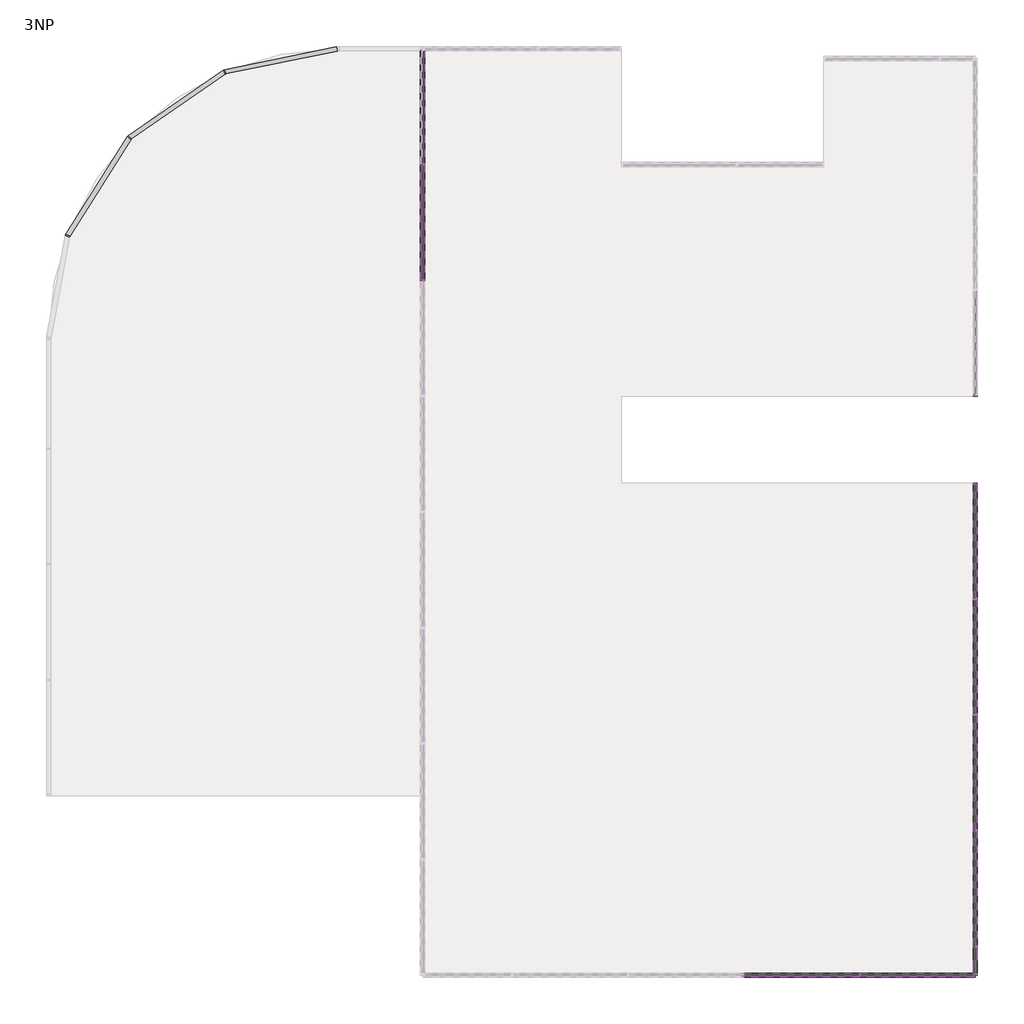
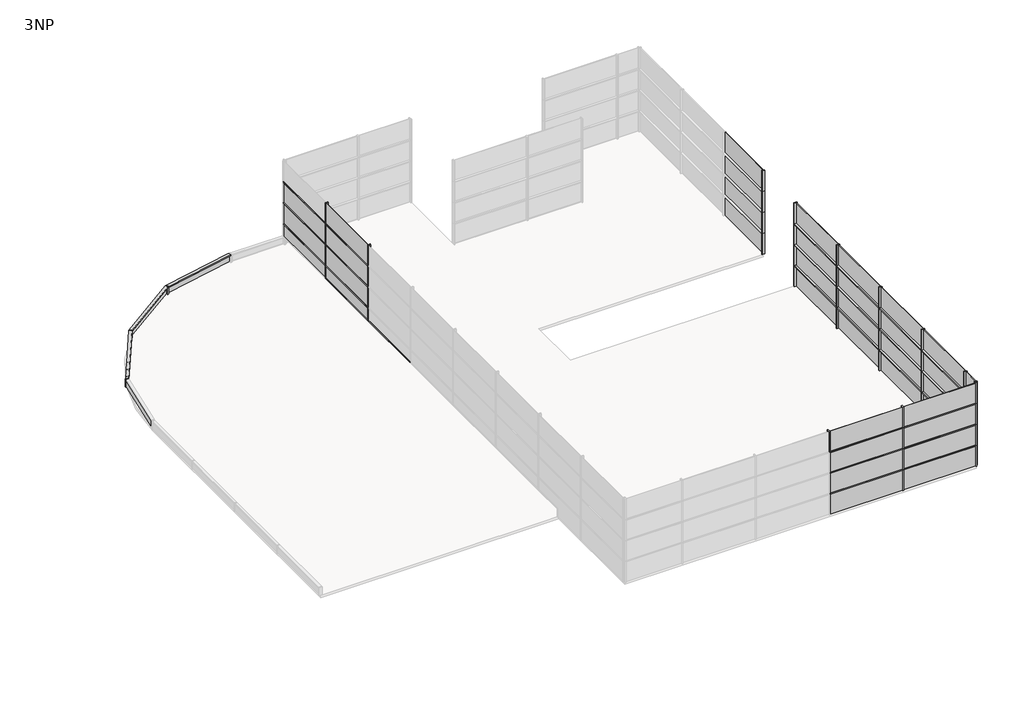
# One storey, part 2 of 3: 80 members, 43 plates.
"""IFC4 building model written with IfcOpenShell, lengths in millimetres."""

from ifc_helpers import new_model, si_unit, origin, place, context, project, spatial, transform, mapped, element, save
from components import rectangular_mullion_50_x_150mm_d99dc9be, rectangular_mullion_50_x_150mm_182bfbd5, rectangular_mullion_50_x_150mm_6588f46c, rectangular_mullion_50_x_150mm_a037c29c, rectangular_mullion_50_x_150mm_c2546fd4, rectangular_mullion_50_x_150mm_116cff39, rectangular_mullion_50_x_150mm_823f78f2, rectangular_mullion_50_x_150mm_ac5ca7ae, rectangular_mullion_50_x_150mm_3491e2ff, rectangular_mullion_50_x_150mm_3d11f3b6, system_panel_glazed_8e9402eb, system_panel_glazed_89ac83a7, system_panel_glazed_5566c609, system_panel_glazed_8c18451d, system_panel_glazed_6f3688e4, system_panel_glazed_b7b38b86, system_panel_glazed_066b9291, system_panel_glazed_e982af32, system_panel_glazed_e390192d

model = new_model("IFC4")

# Units and contexts
model_context = context("Model", 3, world=origin())
ifc_project = project(units=[si_unit("LENGTHUNIT", "METRE", prefix="MILLI")], contexts=[model_context])

# Site, building, storey
site = spatial("IfcSite", under=ifc_project)
building = spatial("IfcBuilding", under=site)
storey = spatial("IfcBuildingStorey", under=building, Name="3NP", Elevation=12000.0)

# Members
placement = place(None, origin())
rectangular_mullion_50_x_150mm_shape = rectangular_mullion_50_x_150mm_d99dc9be(model_context)
element("IfcMember", 1, ObjectType="Rectangular Mullion : 50 x 150mm", at=placement, inside=storey, context=model_context, shape_type="MappedRepresentation", body=[
    mapped(rectangular_mullion_50_x_150mm_shape, transform((13503.2660975, -10624.0160434, 13200.0), x_axis=(0.0, -1.0, 0.0), y_axis=(1.0, 0.0, 0.0), z_axis=(0.0, 0.0, 1.0))),
])
element("IfcMember", 2, ObjectType="Rectangular Mullion : 50 x 150mm", at=placement, inside=storey, context=model_context, shape_type="MappedRepresentation", body=[
    mapped(rectangular_mullion_50_x_150mm_shape, transform((13503.2660975, -10624.0160434, 14400.0), x_axis=(0.0, -1.0, 0.0), y_axis=(1.0, 0.0, 0.0), z_axis=(0.0, 0.0, 1.0))),
])
element("IfcMember", 3, ObjectType="Rectangular Mullion : 50 x 150mm", at=placement, inside=storey, context=model_context, shape_type="MappedRepresentation", body=[
    mapped(rectangular_mullion_50_x_150mm_shape, transform((13503.2660975, -10624.0160434, 15600.0), x_axis=(0.0, -1.0, 0.0), y_axis=(1.0, 0.0, 0.0), z_axis=(0.0, 0.0, 1.0))),
])
element("IfcMember", 4, ObjectType="Rectangular Mullion : 50 x 150mm", at=placement, inside=storey, context=model_context, shape_type="MappedRepresentation", body=[
    mapped(rectangular_mullion_50_x_150mm_shape, transform((13503.2660975, -10624.0160434, 16800.0), x_axis=(0.0, -1.0, 0.0), y_axis=(1.0, 0.0, 0.0), z_axis=(0.0, 0.0, 1.0))),
])
element("IfcMember", 5, ObjectType="Rectangular Mullion : 50 x 150mm", at=placement, inside=storey, context=model_context, shape_type="MappedRepresentation", body=[
    mapped(rectangular_mullion_50_x_150mm_shape, transform((13503.2660975, -14624.0160434, 13200.0), x_axis=(0.0, -1.0, 0.0), y_axis=(1.0, 0.0, 0.0), z_axis=(0.0, 0.0, 1.0))),
])
element("IfcMember", 6, ObjectType="Rectangular Mullion : 50 x 150mm", at=placement, inside=storey, context=model_context, shape_type="MappedRepresentation", body=[
    mapped(rectangular_mullion_50_x_150mm_shape, transform((13503.2660975, -14624.0160434, 14400.0), x_axis=(0.0, -1.0, 0.0), y_axis=(1.0, 0.0, 0.0), z_axis=(0.0, 0.0, 1.0))),
])
element("IfcMember", 7, ObjectType="Rectangular Mullion : 50 x 150mm", at=placement, inside=storey, context=model_context, shape_type="MappedRepresentation", body=[
    mapped(rectangular_mullion_50_x_150mm_shape, transform((13503.2660975, -14624.0160434, 15600.0), x_axis=(0.0, -1.0, 0.0), y_axis=(1.0, 0.0, 0.0), z_axis=(0.0, 0.0, 1.0))),
])
element("IfcMember", 8, ObjectType="Rectangular Mullion : 50 x 150mm", at=placement, inside=storey, context=model_context, shape_type="MappedRepresentation", body=[
    mapped(rectangular_mullion_50_x_150mm_shape, transform((13503.2660975, -14624.0160434, 16800.0), x_axis=(0.0, -1.0, 0.0), y_axis=(1.0, 0.0, 0.0), z_axis=(0.0, 0.0, 1.0))),
])
element("IfcMember", 9, ObjectType="Rectangular Mullion : 50 x 150mm", at=placement, inside=storey, context=model_context, shape_type="MappedRepresentation", body=[
    mapped(rectangular_mullion_50_x_150mm_shape, transform((13503.2660975, -18624.0160434, 13200.0), x_axis=(0.0, -1.0, 0.0), y_axis=(1.0, 0.0, 0.0), z_axis=(0.0, 0.0, 1.0))),
])
element("IfcMember", 10, ObjectType="Rectangular Mullion : 50 x 150mm", at=placement, inside=storey, context=model_context, shape_type="MappedRepresentation", body=[
    mapped(rectangular_mullion_50_x_150mm_shape, transform((13503.2660975, -18624.0160434, 14400.0), x_axis=(0.0, -1.0, 0.0), y_axis=(1.0, 0.0, 0.0), z_axis=(0.0, 0.0, 1.0))),
])
element("IfcMember", 11, ObjectType="Rectangular Mullion : 50 x 150mm", at=placement, inside=storey, context=model_context, shape_type="MappedRepresentation", body=[
    mapped(rectangular_mullion_50_x_150mm_shape, transform((13503.2660975, -18624.0160434, 15600.0), x_axis=(0.0, -1.0, 0.0), y_axis=(1.0, 0.0, 0.0), z_axis=(0.0, 0.0, 1.0))),
])
element("IfcMember", 12, ObjectType="Rectangular Mullion : 50 x 150mm", at=placement, inside=storey, context=model_context, shape_type="MappedRepresentation", body=[
    mapped(rectangular_mullion_50_x_150mm_shape, transform((13503.2660975, -18624.0160434, 16800.0), x_axis=(0.0, -1.0, 0.0), y_axis=(1.0, 0.0, 0.0), z_axis=(0.0, 0.0, 1.0))),
])
element("IfcMember", 13, ObjectType="Rectangular Mullion : 50 x 150mm", at=placement, inside=storey, context=model_context, shape_type="MappedRepresentation", body=[
    mapped(rectangular_mullion_50_x_150mm_shape, transform((13503.2660975, -22624.0160434, 13200.0), x_axis=(0.0, -1.0, 0.0), y_axis=(1.0, 0.0, 0.0), z_axis=(0.0, 0.0, 1.0))),
])
element("IfcMember", 14, ObjectType="Rectangular Mullion : 50 x 150mm", at=placement, inside=storey, context=model_context, shape_type="MappedRepresentation", body=[
    mapped(rectangular_mullion_50_x_150mm_shape, transform((13503.2660975, -22624.0160434, 14400.0), x_axis=(0.0, -1.0, 0.0), y_axis=(1.0, 0.0, 0.0), z_axis=(0.0, 0.0, 1.0))),
])
element("IfcMember", 15, ObjectType="Rectangular Mullion : 50 x 150mm", at=placement, inside=storey, context=model_context, shape_type="MappedRepresentation", body=[
    mapped(rectangular_mullion_50_x_150mm_shape, transform((13503.2660975, -22624.0160434, 15600.0), x_axis=(0.0, -1.0, 0.0), y_axis=(1.0, 0.0, 0.0), z_axis=(0.0, 0.0, 1.0))),
])
element("IfcMember", 16, ObjectType="Rectangular Mullion : 50 x 150mm", at=placement, inside=storey, context=model_context, shape_type="MappedRepresentation", body=[
    mapped(rectangular_mullion_50_x_150mm_shape, transform((13503.2660975, -22624.0160434, 16800.0), x_axis=(0.0, -1.0, 0.0), y_axis=(1.0, 0.0, 0.0), z_axis=(0.0, 0.0, 1.0))),
])
element("IfcMember", 17, ObjectType="Rectangular Mullion : 50 x 150mm", at=placement, inside=storey, context=model_context, shape_type="MappedRepresentation", body=[
    mapped(rectangular_mullion_50_x_150mm_shape, transform((9503.2660975, -23624.0160434, 13200.0), x_axis=(-1.0, 0.0, 0.0), y_axis=(0.0, -1.0, 0.0), z_axis=(0.0, 0.0, 1.0))),
])
element("IfcMember", 18, ObjectType="Rectangular Mullion : 50 x 150mm", at=placement, inside=storey, context=model_context, shape_type="MappedRepresentation", body=[
    mapped(rectangular_mullion_50_x_150mm_shape, transform((9503.2660975, -23624.0160434, 14400.0), x_axis=(-1.0, 0.0, 0.0), y_axis=(0.0, -1.0, 0.0), z_axis=(0.0, 0.0, 1.0))),
])
element("IfcMember", 19, ObjectType="Rectangular Mullion : 50 x 150mm", at=placement, inside=storey, context=model_context, shape_type="MappedRepresentation", body=[
    mapped(rectangular_mullion_50_x_150mm_shape, transform((9503.2660975, -23624.0160434, 15600.0), x_axis=(-1.0, 0.0, 0.0), y_axis=(0.0, -1.0, 0.0), z_axis=(0.0, 0.0, 1.0))),
])
element("IfcMember", 20, ObjectType="Rectangular Mullion : 50 x 150mm", at=placement, inside=storey, context=model_context, shape_type="MappedRepresentation", body=[
    mapped(rectangular_mullion_50_x_150mm_shape, transform((9503.2660975, -23624.0160434, 16800.0), x_axis=(-1.0, 0.0, 0.0), y_axis=(0.0, -1.0, 0.0), z_axis=(0.0, 0.0, 1.0))),
])
element("IfcMember", 21, ObjectType="Rectangular Mullion : 50 x 150mm", at=placement, inside=storey, context=model_context, shape_type="MappedRepresentation", body=[
    mapped(rectangular_mullion_50_x_150mm_shape, transform((5503.2660975, -23624.0160434, 16800.0), x_axis=(-1.0, 0.0, 0.0), y_axis=(0.0, -1.0, 0.0), z_axis=(0.0, 0.0, 1.0))),
])
element("IfcMember", 22, ObjectType="Rectangular Mullion : 50 x 150mm", at=placement, inside=storey, context=model_context, shape_type="MappedRepresentation", body=[
    mapped(rectangular_mullion_50_x_150mm_shape, transform((-5587.173406, 375.9839566, 14400.0), x_axis=(0.0, 1.0, 0.0), y_axis=(-1.0, 0.0, 0.0), z_axis=(0.0, 0.0, 1.0))),
])
element("IfcMember", 23, ObjectType="Rectangular Mullion : 50 x 150mm", at=placement, inside=storey, context=model_context, shape_type="MappedRepresentation", body=[
    mapped(rectangular_mullion_50_x_150mm_shape, transform((-5587.173406, 375.9839566, 15600.0), x_axis=(0.0, 1.0, 0.0), y_axis=(-1.0, 0.0, 0.0), z_axis=(0.0, 0.0, 1.0))),
])
element("IfcMember", 24, ObjectType="Rectangular Mullion : 50 x 150mm", at=placement, inside=storey, context=model_context, shape_type="MappedRepresentation", body=[
    mapped(rectangular_mullion_50_x_150mm_shape, transform((-5587.173406, 375.9839566, 16800.0), x_axis=(0.0, 1.0, 0.0), y_axis=(-1.0, 0.0, 0.0), z_axis=(0.0, 0.0, 1.0))),
])
element("IfcMember", 25, ObjectType="Rectangular Mullion : 50 x 150mm", at=placement, inside=storey, context=model_context, shape_type="MappedRepresentation", body=[
    mapped(rectangular_mullion_50_x_150mm_shape, transform((-5587.173406, 4375.9839566, 14400.0), x_axis=(0.0, 1.0, 0.0), y_axis=(-1.0, 0.0, 0.0), z_axis=(0.0, 0.0, 1.0))),
])
element("IfcMember", 26, ObjectType="Rectangular Mullion : 50 x 150mm", at=placement, inside=storey, context=model_context, shape_type="MappedRepresentation", body=[
    mapped(rectangular_mullion_50_x_150mm_shape, transform((-5587.173406, 4375.9839566, 15600.0), x_axis=(0.0, 1.0, 0.0), y_axis=(-1.0, 0.0, 0.0), z_axis=(0.0, 0.0, 1.0))),
])
element("IfcMember", 27, ObjectType="Rectangular Mullion : 50 x 150mm", at=placement, inside=storey, context=model_context, shape_type="MappedRepresentation", body=[
    mapped(rectangular_mullion_50_x_150mm_shape, transform((-5587.173406, 4375.9839566, 16800.0), x_axis=(0.0, 1.0, 0.0), y_axis=(-1.0, 0.0, 0.0), z_axis=(0.0, 0.0, 1.0))),
])
rectangular_mullion_50_x_150mm_2_shape = rectangular_mullion_50_x_150mm_182bfbd5(model_context)
element("IfcMember", 28, ObjectType="Rectangular Mullion : 50 x 150mm", at=placement, inside=storey, context=model_context, shape_type="MappedRepresentation", body=[
    mapped(rectangular_mullion_50_x_150mm_2_shape, transform((-5587.173406, 350.9839566, 12448.4924443), x_axis=(0.0, 0.0, -1.0), y_axis=(-1.0, 0.0, 0.0), z_axis=(0.0, 1.0, 0.0))),
])
element("IfcMember", 29, ObjectType="Rectangular Mullion : 50 x 150mm", at=placement, inside=storey, context=model_context, shape_type="MappedRepresentation", body=[
    mapped(rectangular_mullion_50_x_150mm_2_shape, transform((-5587.173406, 4350.9839566, 12448.4924443), x_axis=(0.0, 0.0, -1.0), y_axis=(-1.0, 0.0, 0.0), z_axis=(0.0, 1.0, 0.0))),
])
rectangular_mullion_50_x_150mm_3_shape = rectangular_mullion_50_x_150mm_6588f46c(model_context)
element("IfcMember", 30, ObjectType="Rectangular Mullion : 50 x 150mm", at=placement, inside=storey, context=model_context, shape_type="MappedRepresentation", body=[
    mapped(rectangular_mullion_50_x_150mm_3_shape, transform((13503.2660975, -3624.0160434, 16800.0), x_axis=(0.0, -1.0, 0.0), y_axis=(1.0, 0.0, 0.0), z_axis=(0.0, 0.0, 1.0))),
])
element("IfcMember", 31, ObjectType="Rectangular Mullion : 50 x 150mm", at=placement, inside=storey, context=model_context, shape_type="MappedRepresentation", body=[
    mapped(rectangular_mullion_50_x_150mm_3_shape, transform((13503.2660975, -3624.0160434, 15600.0), x_axis=(0.0, -1.0, 0.0), y_axis=(1.0, 0.0, 0.0), z_axis=(0.0, 0.0, 1.0))),
])
element("IfcMember", 32, ObjectType="Rectangular Mullion : 50 x 150mm", at=placement, inside=storey, context=model_context, shape_type="MappedRepresentation", body=[
    mapped(rectangular_mullion_50_x_150mm_3_shape, transform((13503.2660975, -3624.0160434, 14400.0), x_axis=(0.0, -1.0, 0.0), y_axis=(1.0, 0.0, 0.0), z_axis=(0.0, 0.0, 1.0))),
])
element("IfcMember", 33, ObjectType="Rectangular Mullion : 50 x 150mm", at=placement, inside=storey, context=model_context, shape_type="MappedRepresentation", body=[
    mapped(rectangular_mullion_50_x_150mm_3_shape, transform((13503.2660975, -3624.0160434, 13200.0), x_axis=(0.0, -1.0, 0.0), y_axis=(1.0, 0.0, 0.0), z_axis=(0.0, 0.0, 1.0))),
])
element("IfcMember", 34, ObjectType="Rectangular Mullion : 50 x 150mm", at=placement, inside=storey, context=model_context, shape_type="MappedRepresentation", body=[
    mapped(rectangular_mullion_50_x_150mm_3_shape, transform((13503.2660975, -23624.0160434, 13200.0), x_axis=(0.0, -1.0, 0.0), y_axis=(1.0, 0.0, 0.0), z_axis=(0.0, 0.0, 1.0))),
])
element("IfcMember", 35, ObjectType="Rectangular Mullion : 50 x 150mm", at=placement, inside=storey, context=model_context, shape_type="MappedRepresentation", body=[
    mapped(rectangular_mullion_50_x_150mm_3_shape, transform((13503.2660975, -23624.0160434, 14400.0), x_axis=(0.0, -1.0, 0.0), y_axis=(1.0, 0.0, 0.0), z_axis=(0.0, 0.0, 1.0))),
])
element("IfcMember", 36, ObjectType="Rectangular Mullion : 50 x 150mm", at=placement, inside=storey, context=model_context, shape_type="MappedRepresentation", body=[
    mapped(rectangular_mullion_50_x_150mm_3_shape, transform((13503.2660975, -23624.0160434, 15600.0), x_axis=(0.0, -1.0, 0.0), y_axis=(1.0, 0.0, 0.0), z_axis=(0.0, 0.0, 1.0))),
])
element("IfcMember", 37, ObjectType="Rectangular Mullion : 50 x 150mm", at=placement, inside=storey, context=model_context, shape_type="MappedRepresentation", body=[
    mapped(rectangular_mullion_50_x_150mm_3_shape, transform((13503.2660975, -23624.0160434, 16800.0), x_axis=(0.0, -1.0, 0.0), y_axis=(1.0, 0.0, 0.0), z_axis=(0.0, 0.0, 1.0))),
])
rectangular_mullion_50_x_150mm_4_shape = rectangular_mullion_50_x_150mm_a037c29c(model_context)
element("IfcMember", 38, ObjectType="Rectangular Mullion : 50 x 150mm", at=placement, inside=storey, context=model_context, shape_type="MappedRepresentation", body=[
    mapped(rectangular_mullion_50_x_150mm_4_shape, transform((13503.2660975, -18649.0160434, 13200.0), x_axis=(0.0, 0.0, 1.0), y_axis=(1.0, 0.0, 0.0), z_axis=(0.0, 1.0, 0.0))),
])
element("IfcMember", 39, ObjectType="Rectangular Mullion : 50 x 150mm", at=placement, inside=storey, context=model_context, shape_type="MappedRepresentation", body=[
    mapped(rectangular_mullion_50_x_150mm_4_shape, transform((13503.2660975, -10649.0160434, 14400.0), x_axis=(0.0, 0.0, 1.0), y_axis=(1.0, 0.0, 0.0), z_axis=(0.0, 1.0, 0.0))),
])
element("IfcMember", 40, ObjectType="Rectangular Mullion : 50 x 150mm", at=placement, inside=storey, context=model_context, shape_type="MappedRepresentation", body=[
    mapped(rectangular_mullion_50_x_150mm_4_shape, transform((13503.2660975, -14649.0160434, 14400.0), x_axis=(0.0, 0.0, 1.0), y_axis=(1.0, 0.0, 0.0), z_axis=(0.0, 1.0, 0.0))),
])
element("IfcMember", 41, ObjectType="Rectangular Mullion : 50 x 150mm", at=placement, inside=storey, context=model_context, shape_type="MappedRepresentation", body=[
    mapped(rectangular_mullion_50_x_150mm_4_shape, transform((13503.2660975, -18649.0160434, 14400.0), x_axis=(0.0, 0.0, 1.0), y_axis=(1.0, 0.0, 0.0), z_axis=(0.0, 1.0, 0.0))),
])
element("IfcMember", 42, ObjectType="Rectangular Mullion : 50 x 150mm", at=placement, inside=storey, context=model_context, shape_type="MappedRepresentation", body=[
    mapped(rectangular_mullion_50_x_150mm_4_shape, transform((13503.2660975, -10649.0160434, 15600.0), x_axis=(0.0, 0.0, 1.0), y_axis=(1.0, 0.0, 0.0), z_axis=(0.0, 1.0, 0.0))),
])
element("IfcMember", 43, ObjectType="Rectangular Mullion : 50 x 150mm", at=placement, inside=storey, context=model_context, shape_type="MappedRepresentation", body=[
    mapped(rectangular_mullion_50_x_150mm_4_shape, transform((13503.2660975, -14649.0160434, 15600.0), x_axis=(0.0, 0.0, 1.0), y_axis=(1.0, 0.0, 0.0), z_axis=(0.0, 1.0, 0.0))),
])
element("IfcMember", 44, ObjectType="Rectangular Mullion : 50 x 150mm", at=placement, inside=storey, context=model_context, shape_type="MappedRepresentation", body=[
    mapped(rectangular_mullion_50_x_150mm_4_shape, transform((13503.2660975, -18649.0160434, 15600.0), x_axis=(0.0, 0.0, 1.0), y_axis=(1.0, 0.0, 0.0), z_axis=(0.0, 1.0, 0.0))),
])
element("IfcMember", 45, ObjectType="Rectangular Mullion : 50 x 150mm", at=placement, inside=storey, context=model_context, shape_type="MappedRepresentation", body=[
    mapped(rectangular_mullion_50_x_150mm_4_shape, transform((13503.2660975, -10649.0160434, 13200.0), x_axis=(0.0, 0.0, 1.0), y_axis=(1.0, 0.0, 0.0), z_axis=(0.0, 1.0, 0.0))),
])
element("IfcMember", 46, ObjectType="Rectangular Mullion : 50 x 150mm", at=placement, inside=storey, context=model_context, shape_type="MappedRepresentation", body=[
    mapped(rectangular_mullion_50_x_150mm_4_shape, transform((13503.2660975, -14649.0160434, 13200.0), x_axis=(0.0, 0.0, 1.0), y_axis=(1.0, 0.0, 0.0), z_axis=(0.0, 1.0, 0.0))),
])
element("IfcMember", 47, ObjectType="Rectangular Mullion : 50 x 150mm", at=placement, inside=storey, context=model_context, shape_type="MappedRepresentation", body=[
    mapped(rectangular_mullion_50_x_150mm_4_shape, transform((9478.2660975, -23624.0160434, 14400.0), x_axis=(0.0, 0.0, 1.0), y_axis=(0.0, -1.0, 0.0), z_axis=(1.0, 0.0, 0.0))),
])
element("IfcMember", 48, ObjectType="Rectangular Mullion : 50 x 150mm", at=placement, inside=storey, context=model_context, shape_type="MappedRepresentation", body=[
    mapped(rectangular_mullion_50_x_150mm_4_shape, transform((9478.2660975, -23624.0160434, 15600.0), x_axis=(0.0, 0.0, 1.0), y_axis=(0.0, -1.0, 0.0), z_axis=(1.0, 0.0, 0.0))),
])
element("IfcMember", 49, ObjectType="Rectangular Mullion : 50 x 150mm", at=placement, inside=storey, context=model_context, shape_type="MappedRepresentation", body=[
    mapped(rectangular_mullion_50_x_150mm_4_shape, transform((9478.2660975, -23624.0160434, 13200.0), x_axis=(0.0, 0.0, 1.0), y_axis=(0.0, -1.0, 0.0), z_axis=(1.0, 0.0, 0.0))),
])
element("IfcMember", 50, ObjectType="Rectangular Mullion : 50 x 150mm", at=placement, inside=storey, context=model_context, shape_type="MappedRepresentation", body=[
    mapped(rectangular_mullion_50_x_150mm_4_shape, transform((-5587.173406, 400.9839566, 15600.0), x_axis=(0.0, 0.0, 1.0), y_axis=(-1.0, 0.0, 0.0), z_axis=(0.0, -1.0, 0.0))),
])
element("IfcMember", 51, ObjectType="Rectangular Mullion : 50 x 150mm", at=placement, inside=storey, context=model_context, shape_type="MappedRepresentation", body=[
    mapped(rectangular_mullion_50_x_150mm_4_shape, transform((-5587.173406, 400.9839566, 14400.0), x_axis=(0.0, 0.0, 1.0), y_axis=(-1.0, 0.0, 0.0), z_axis=(0.0, -1.0, 0.0))),
])
element("IfcMember", 52, ObjectType="Rectangular Mullion : 50 x 150mm", at=placement, inside=storey, context=model_context, shape_type="MappedRepresentation", body=[
    mapped(rectangular_mullion_50_x_150mm_4_shape, transform((-5587.173406, 400.9839566, 13200.0), x_axis=(0.0, 0.0, 1.0), y_axis=(-1.0, 0.0, 0.0), z_axis=(0.0, -1.0, 0.0))),
])
rectangular_mullion_50_x_150mm_5_shape = rectangular_mullion_50_x_150mm_c2546fd4(model_context)
element("IfcMember", 53, ObjectType="Rectangular Mullion : 50 x 150mm", at=placement, inside=storey, context=model_context, shape_type="MappedRepresentation", body=[
    mapped(rectangular_mullion_50_x_150mm_5_shape, transform((13503.2660975, -6674.0160434, 14400.0), x_axis=(0.0, 0.0, 1.0), y_axis=(1.0, 0.0, 0.0), z_axis=(0.0, 1.0, 0.0))),
])
element("IfcMember", 54, ObjectType="Rectangular Mullion : 50 x 150mm", at=placement, inside=storey, context=model_context, shape_type="MappedRepresentation", body=[
    mapped(rectangular_mullion_50_x_150mm_5_shape, transform((13503.2660975, -6674.0160434, 15600.0), x_axis=(0.0, 0.0, 1.0), y_axis=(1.0, 0.0, 0.0), z_axis=(0.0, 1.0, 0.0))),
])
element("IfcMember", 55, ObjectType="Rectangular Mullion : 50 x 150mm", at=placement, inside=storey, context=model_context, shape_type="MappedRepresentation", body=[
    mapped(rectangular_mullion_50_x_150mm_5_shape, transform((13503.2660975, -6674.0160434, 13200.0), x_axis=(0.0, 0.0, 1.0), y_axis=(1.0, 0.0, 0.0), z_axis=(0.0, 1.0, 0.0))),
])
element("IfcMember", 56, ObjectType="Rectangular Mullion : 50 x 150mm", at=placement, inside=storey, context=model_context, shape_type="MappedRepresentation", body=[
    mapped(rectangular_mullion_50_x_150mm_5_shape, transform((13453.2660975, -23624.0160434, 14400.0), x_axis=(0.0, 0.0, 1.0), y_axis=(0.0, -1.0, 0.0), z_axis=(1.0, 0.0, 0.0))),
])
element("IfcMember", 57, ObjectType="Rectangular Mullion : 50 x 150mm", at=placement, inside=storey, context=model_context, shape_type="MappedRepresentation", body=[
    mapped(rectangular_mullion_50_x_150mm_5_shape, transform((13453.2660975, -23624.0160434, 15600.0), x_axis=(0.0, 0.0, 1.0), y_axis=(0.0, -1.0, 0.0), z_axis=(1.0, 0.0, 0.0))),
])
element("IfcMember", 58, ObjectType="Rectangular Mullion : 50 x 150mm", at=placement, inside=storey, context=model_context, shape_type="MappedRepresentation", body=[
    mapped(rectangular_mullion_50_x_150mm_5_shape, transform((13453.2660975, -23624.0160434, 13200.0), x_axis=(0.0, 0.0, 1.0), y_axis=(0.0, -1.0, 0.0), z_axis=(1.0, 0.0, 0.0))),
])
element("IfcMember", 59, ObjectType="Rectangular Mullion : 50 x 150mm", at=placement, inside=storey, context=model_context, shape_type="MappedRepresentation", body=[
    mapped(rectangular_mullion_50_x_150mm_5_shape, transform((-5587.173406, 4400.9839566, 15600.0), x_axis=(0.0, 0.0, 1.0), y_axis=(-1.0, 0.0, 0.0), z_axis=(0.0, -1.0, 0.0))),
])
element("IfcMember", 60, ObjectType="Rectangular Mullion : 50 x 150mm", at=placement, inside=storey, context=model_context, shape_type="MappedRepresentation", body=[
    mapped(rectangular_mullion_50_x_150mm_5_shape, transform((-5587.173406, 4400.9839566, 14400.0), x_axis=(0.0, 0.0, 1.0), y_axis=(-1.0, 0.0, 0.0), z_axis=(0.0, -1.0, 0.0))),
])
element("IfcMember", 61, ObjectType="Rectangular Mullion : 50 x 150mm", at=placement, inside=storey, context=model_context, shape_type="MappedRepresentation", body=[
    mapped(rectangular_mullion_50_x_150mm_5_shape, transform((-5587.173406, 4400.9839566, 13200.0), x_axis=(0.0, 0.0, 1.0), y_axis=(-1.0, 0.0, 0.0), z_axis=(0.0, -1.0, 0.0))),
])
element("IfcMember", 62, ObjectType="Rectangular Mullion : 50 x 150mm", at=placement, inside=storey, context=model_context, shape_type="MappedRepresentation", body=[
    mapped(rectangular_mullion_50_x_150mm_3_shape, transform((13503.2660975, -6624.0160434, 12000.0), x_axis=(0.0, 1.0, 0.0), y_axis=(1.0, 0.0, 0.0), z_axis=(0.0, 0.0, -1.0))),
])
element("IfcMember", 63, ObjectType="Rectangular Mullion : 50 x 150mm", at=placement, inside=storey, context=model_context, shape_type="MappedRepresentation", body=[
    mapped(rectangular_mullion_50_x_150mm_3_shape, transform((13503.2660975, -6624.0160434, 13200.0), x_axis=(0.0, 1.0, 0.0), y_axis=(1.0, 0.0, 0.0), z_axis=(0.0, 0.0, -1.0))),
])
element("IfcMember", 64, ObjectType="Rectangular Mullion : 50 x 150mm", at=placement, inside=storey, context=model_context, shape_type="MappedRepresentation", body=[
    mapped(rectangular_mullion_50_x_150mm_3_shape, transform((13503.2660975, -6624.0160434, 14400.0), x_axis=(0.0, 1.0, 0.0), y_axis=(1.0, 0.0, 0.0), z_axis=(0.0, 0.0, -1.0))),
])
element("IfcMember", 65, ObjectType="Rectangular Mullion : 50 x 150mm", at=placement, inside=storey, context=model_context, shape_type="MappedRepresentation", body=[
    mapped(rectangular_mullion_50_x_150mm_3_shape, transform((13503.2660975, -6624.0160434, 15600.0), x_axis=(0.0, 1.0, 0.0), y_axis=(1.0, 0.0, 0.0), z_axis=(0.0, 0.0, -1.0))),
])
element("IfcMember", 66, ObjectType="Rectangular Mullion : 50 x 150mm", at=placement, inside=storey, context=model_context, shape_type="MappedRepresentation", body=[
    mapped(rectangular_mullion_50_x_150mm_3_shape, transform((13503.2660975, -23624.0160434, 12000.0), x_axis=(1.0, 0.0, 0.0), y_axis=(0.0, -1.0, 0.0), z_axis=(0.0, 0.0, -1.0))),
])
element("IfcMember", 67, ObjectType="Rectangular Mullion : 50 x 150mm", at=placement, inside=storey, context=model_context, shape_type="MappedRepresentation", body=[
    mapped(rectangular_mullion_50_x_150mm_3_shape, transform((13503.2660975, -23624.0160434, 13200.0), x_axis=(1.0, 0.0, 0.0), y_axis=(0.0, -1.0, 0.0), z_axis=(0.0, 0.0, -1.0))),
])
element("IfcMember", 68, ObjectType="Rectangular Mullion : 50 x 150mm", at=placement, inside=storey, context=model_context, shape_type="MappedRepresentation", body=[
    mapped(rectangular_mullion_50_x_150mm_3_shape, transform((13503.2660975, -23624.0160434, 14400.0), x_axis=(1.0, 0.0, 0.0), y_axis=(0.0, -1.0, 0.0), z_axis=(0.0, 0.0, -1.0))),
])
element("IfcMember", 69, ObjectType="Rectangular Mullion : 50 x 150mm", at=placement, inside=storey, context=model_context, shape_type="MappedRepresentation", body=[
    mapped(rectangular_mullion_50_x_150mm_3_shape, transform((13503.2660975, -23624.0160434, 15600.0), x_axis=(1.0, 0.0, 0.0), y_axis=(0.0, -1.0, 0.0), z_axis=(0.0, 0.0, -1.0))),
])
rectangular_mullion_50_x_150mm_6_shape = rectangular_mullion_50_x_150mm_116cff39(model_context)
element("IfcMember", 70, ObjectType="Rectangular Mullion : 50 x 150mm", at=placement, inside=storey, context=model_context, shape_type="MappedRepresentation", body=[
    mapped(rectangular_mullion_50_x_150mm_6_shape, transform((13503.2660975, -22649.0160434, 13200.0), x_axis=(0.0, 0.0, 1.0), y_axis=(1.0, 0.0, 0.0), z_axis=(0.0, 1.0, 0.0))),
])
element("IfcMember", 71, ObjectType="Rectangular Mullion : 50 x 150mm", at=placement, inside=storey, context=model_context, shape_type="MappedRepresentation", body=[
    mapped(rectangular_mullion_50_x_150mm_6_shape, transform((13503.2660975, -22649.0160434, 14400.0), x_axis=(0.0, 0.0, 1.0), y_axis=(1.0, 0.0, 0.0), z_axis=(0.0, 1.0, 0.0))),
])
element("IfcMember", 72, ObjectType="Rectangular Mullion : 50 x 150mm", at=placement, inside=storey, context=model_context, shape_type="MappedRepresentation", body=[
    mapped(rectangular_mullion_50_x_150mm_6_shape, transform((13503.2660975, -22649.0160434, 15600.0), x_axis=(0.0, 0.0, 1.0), y_axis=(1.0, 0.0, 0.0), z_axis=(0.0, 1.0, 0.0))),
])
rectangular_mullion_50_x_150mm_7_shape = rectangular_mullion_50_x_150mm_823f78f2(model_context)
element("IfcMember", 73, ObjectType="Rectangular Mullion : 50 x 150mm", at=placement, inside=storey, context=model_context, shape_type="MappedRepresentation", body=[
    mapped(rectangular_mullion_50_x_150mm_7_shape, transform((-5587.173406, 375.9839566, 13200.0), x_axis=(0.0, 1.0, 0.0), y_axis=(-1.0, 0.0, 0.0), z_axis=(0.0, 0.0, 1.0))),
])
element("IfcMember", 74, ObjectType="Rectangular Mullion : 50 x 150mm", at=placement, inside=storey, context=model_context, shape_type="MappedRepresentation", body=[
    mapped(rectangular_mullion_50_x_150mm_7_shape, transform((-5587.173406, 4375.9839566, 13200.0), x_axis=(0.0, 1.0, 0.0), y_axis=(-1.0, 0.0, 0.0), z_axis=(0.0, 0.0, 1.0))),
])
rectangular_mullion_50_x_150mm_8_shape = rectangular_mullion_50_x_150mm_ac5ca7ae(model_context)
element("IfcMember", 75, ObjectType="Rectangular Mullion : 50 x 150mm", at=placement, inside=storey, context=model_context, shape_type="MappedRepresentation", body=[
    mapped(rectangular_mullion_50_x_150mm_8_shape, transform((-12391.4225935, 7580.9839566, 12448.4924443), x_axis=(0.0, 0.0, 1.0), y_axis=(-0.19999999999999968, 0.9797958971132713, 0.0), z_axis=(-0.9797958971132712, -0.19999999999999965, 0.0))),
])
rectangular_mullion_50_x_150mm_9_shape = rectangular_mullion_50_x_150mm_3491e2ff(model_context)
element("IfcMember", 76, ObjectType="Rectangular Mullion : 50 x 150mm", at=placement, inside=storey, context=model_context, shape_type="MappedRepresentation", body=[
    mapped(rectangular_mullion_50_x_150mm_9_shape, transform((-15687.4559914, 5318.1839566, 12448.4924443), x_axis=(0.0, 0.0, 1.0), y_axis=(-0.5680000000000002, 0.8230285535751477, 0.0), z_axis=(-0.8230285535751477, -0.5680000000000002, 0.0))),
])
element("IfcMember", 77, ObjectType="Rectangular Mullion : 50 x 150mm", at=placement, inside=storey, context=model_context, shape_type="MappedRepresentation", body=[
    mapped(rectangular_mullion_50_x_150mm_9_shape, transform((-17832.9738551, 1944.6319566, 12448.4924443), x_axis=(0.0, 0.0, 1.0), y_axis=(-0.8451199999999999, 0.5345766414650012, 0.0), z_axis=(-0.5345766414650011, -0.8451199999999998, 0.0))),
])
rectangular_mullion_50_x_150mm_10_shape = rectangular_mullion_50_x_150mm_3d11f3b6(model_context)
element("IfcMember", 78, ObjectType="Rectangular Mullion : 50 x 150mm", at=placement, inside=storey, context=model_context, shape_type="MappedRepresentation", body=[
    mapped(rectangular_mullion_50_x_150mm_10_shape, transform((-12415.9174909, 7575.9839566, 12000.0), x_axis=(-0.92, -0.3919183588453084, 0.0), y_axis=(-0.3919183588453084, 0.92, 0.0), z_axis=(0.0, 0.0, -1.0))),
])
element("IfcMember", 79, ObjectType="Rectangular Mullion : 50 x 150mm", at=placement, inside=storey, context=model_context, shape_type="MappedRepresentation", body=[
    mapped(rectangular_mullion_50_x_150mm_10_shape, transform((-15708.0317052, 5303.9839566, 12000.0), x_axis=(-0.6928000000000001, -0.7211297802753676, 0.0), y_axis=(-0.7211297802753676, 0.6928000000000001, 0.0), z_axis=(0.0, 0.0, -1.0))),
])
element("IfcMember", 80, ObjectType="Rectangular Mullion : 50 x 150mm", at=placement, inside=storey, context=model_context, shape_type="MappedRepresentation", body=[
    mapped(rectangular_mullion_50_x_150mm_10_shape, transform((-17846.3382711, 1923.5039566, 12000.0), x_axis=(-0.35475199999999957, -0.9349604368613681, 0.0), y_axis=(-0.9349604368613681, 0.35475199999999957, 0.0), z_axis=(0.0, 0.0, -1.0))),
])

# Plates
system_panel_glazed_shape = system_panel_glazed_8e9402eb(model_context)
element("IfcPlate", 81, ObjectType="System Panel : Glazed", at=placement, inside=storey, context=model_context, shape_type="MappedRepresentation", body=[
    mapped(system_panel_glazed_shape, transform((-5587.173406, 6363.4839566, 13225.0), x_axis=(0.0, 1.0, 0.0), y_axis=(-1.0, 0.0, 0.0), z_axis=(0.0, 0.0, 1.0))),
])
element("IfcPlate", 82, ObjectType="System Panel : Glazed", at=placement, inside=storey, context=model_context, shape_type="MappedRepresentation", body=[
    mapped(system_panel_glazed_shape, transform((-5587.173406, 6363.4839566, 14425.0), x_axis=(0.0, 1.0, 0.0), y_axis=(-1.0, 0.0, 0.0), z_axis=(0.0, 0.0, 1.0))),
])
element("IfcPlate", 83, ObjectType="System Panel : Glazed", at=placement, inside=storey, context=model_context, shape_type="MappedRepresentation", body=[
    mapped(system_panel_glazed_shape, transform((11490.7660975, -23624.0160434, 12025.0), x_axis=(-1.0, 0.0, 0.0), y_axis=(0.0, -1.0, 0.0), z_axis=(0.0, 0.0, 1.0))),
])
element("IfcPlate", 84, ObjectType="System Panel : Glazed", at=placement, inside=storey, context=model_context, shape_type="MappedRepresentation", body=[
    mapped(system_panel_glazed_shape, transform((11490.7660975, -23624.0160434, 13225.0), x_axis=(-1.0, 0.0, 0.0), y_axis=(0.0, -1.0, 0.0), z_axis=(0.0, 0.0, 1.0))),
])
element("IfcPlate", 85, ObjectType="System Panel : Glazed", at=placement, inside=storey, context=model_context, shape_type="MappedRepresentation", body=[
    mapped(system_panel_glazed_shape, transform((11490.7660975, -23624.0160434, 14425.0), x_axis=(-1.0, 0.0, 0.0), y_axis=(0.0, -1.0, 0.0), z_axis=(0.0, 0.0, 1.0))),
])
element("IfcPlate", 86, ObjectType="System Panel : Glazed", at=placement, inside=storey, context=model_context, shape_type="MappedRepresentation", body=[
    mapped(system_panel_glazed_shape, transform((11490.7660975, -23624.0160434, 15625.0), x_axis=(-1.0, 0.0, 0.0), y_axis=(0.0, -1.0, 0.0), z_axis=(0.0, 0.0, 1.0))),
])
element("IfcPlate", 87, ObjectType="System Panel : Glazed", at=placement, inside=storey, context=model_context, shape_type="MappedRepresentation", body=[
    mapped(system_panel_glazed_shape, transform((13503.2660975, -8636.5160434, 12025.0), x_axis=(0.0, -1.0, 0.0), y_axis=(1.0, 0.0, 0.0), z_axis=(0.0, 0.0, 1.0))),
])
element("IfcPlate", 88, ObjectType="System Panel : Glazed", at=placement, inside=storey, context=model_context, shape_type="MappedRepresentation", body=[
    mapped(system_panel_glazed_shape, transform((13503.2660975, -8636.5160434, 13225.0), x_axis=(0.0, -1.0, 0.0), y_axis=(1.0, 0.0, 0.0), z_axis=(0.0, 0.0, 1.0))),
])
element("IfcPlate", 89, ObjectType="System Panel : Glazed", at=placement, inside=storey, context=model_context, shape_type="MappedRepresentation", body=[
    mapped(system_panel_glazed_shape, transform((13503.2660975, -8636.5160434, 14425.0), x_axis=(0.0, -1.0, 0.0), y_axis=(1.0, 0.0, 0.0), z_axis=(0.0, 0.0, 1.0))),
])
element("IfcPlate", 90, ObjectType="System Panel : Glazed", at=placement, inside=storey, context=model_context, shape_type="MappedRepresentation", body=[
    mapped(system_panel_glazed_shape, transform((13503.2660975, -8636.5160434, 15625.0), x_axis=(0.0, -1.0, 0.0), y_axis=(1.0, 0.0, 0.0), z_axis=(0.0, 0.0, 1.0))),
])
system_panel_glazed_2_shape = system_panel_glazed_89ac83a7(model_context)
element("IfcPlate", 91, ObjectType="System Panel : Glazed", at=placement, inside=storey, context=model_context, shape_type="MappedRepresentation", body=[
    mapped(system_panel_glazed_2_shape, transform((-5587.173406, 2375.9839566, 13225.0), x_axis=(0.0, 1.0, 0.0), y_axis=(-1.0, 0.0, 0.0), z_axis=(0.0, 0.0, 1.0))),
])
element("IfcPlate", 92, ObjectType="System Panel : Glazed", at=placement, inside=storey, context=model_context, shape_type="MappedRepresentation", body=[
    mapped(system_panel_glazed_2_shape, transform((-5587.173406, 2375.9839566, 14425.0), x_axis=(0.0, 1.0, 0.0), y_axis=(-1.0, 0.0, 0.0), z_axis=(0.0, 0.0, 1.0))),
])
element("IfcPlate", 93, ObjectType="System Panel : Glazed", at=placement, inside=storey, context=model_context, shape_type="MappedRepresentation", body=[
    mapped(system_panel_glazed_2_shape, transform((-5587.173406, 2375.9839566, 15625.0), x_axis=(0.0, 1.0, 0.0), y_axis=(-1.0, 0.0, 0.0), z_axis=(0.0, 0.0, 1.0))),
])
element("IfcPlate", 94, ObjectType="System Panel : Glazed", at=placement, inside=storey, context=model_context, shape_type="MappedRepresentation", body=[
    mapped(system_panel_glazed_2_shape, transform((7503.2660975, -23624.0160434, 12025.0), x_axis=(-1.0, 0.0, 0.0), y_axis=(0.0, -1.0, 0.0), z_axis=(0.0, 0.0, 1.0))),
])
element("IfcPlate", 95, ObjectType="System Panel : Glazed", at=placement, inside=storey, context=model_context, shape_type="MappedRepresentation", body=[
    mapped(system_panel_glazed_2_shape, transform((7503.2660975, -23624.0160434, 13225.0), x_axis=(-1.0, 0.0, 0.0), y_axis=(0.0, -1.0, 0.0), z_axis=(0.0, 0.0, 1.0))),
])
element("IfcPlate", 96, ObjectType="System Panel : Glazed", at=placement, inside=storey, context=model_context, shape_type="MappedRepresentation", body=[
    mapped(system_panel_glazed_2_shape, transform((7503.2660975, -23624.0160434, 14425.0), x_axis=(-1.0, 0.0, 0.0), y_axis=(0.0, -1.0, 0.0), z_axis=(0.0, 0.0, 1.0))),
])
element("IfcPlate", 97, ObjectType="System Panel : Glazed", at=placement, inside=storey, context=model_context, shape_type="MappedRepresentation", body=[
    mapped(system_panel_glazed_2_shape, transform((7503.2660975, -23624.0160434, 15625.0), x_axis=(-1.0, 0.0, 0.0), y_axis=(0.0, -1.0, 0.0), z_axis=(0.0, 0.0, 1.0))),
])
element("IfcPlate", 98, ObjectType="System Panel : Glazed", at=placement, inside=storey, context=model_context, shape_type="MappedRepresentation", body=[
    mapped(system_panel_glazed_2_shape, transform((13503.2660975, -12624.0160434, 12025.0), x_axis=(0.0, -1.0, 0.0), y_axis=(1.0, 0.0, 0.0), z_axis=(0.0, 0.0, 1.0))),
])
element("IfcPlate", 99, ObjectType="System Panel : Glazed", at=placement, inside=storey, context=model_context, shape_type="MappedRepresentation", body=[
    mapped(system_panel_glazed_2_shape, transform((13503.2660975, -16624.0160434, 12025.0), x_axis=(0.0, -1.0, 0.0), y_axis=(1.0, 0.0, 0.0), z_axis=(0.0, 0.0, 1.0))),
])
element("IfcPlate", 100, ObjectType="System Panel : Glazed", at=placement, inside=storey, context=model_context, shape_type="MappedRepresentation", body=[
    mapped(system_panel_glazed_2_shape, transform((13503.2660975, -20624.0160434, 12025.0), x_axis=(0.0, -1.0, 0.0), y_axis=(1.0, 0.0, 0.0), z_axis=(0.0, 0.0, 1.0))),
])
element("IfcPlate", 101, ObjectType="System Panel : Glazed", at=placement, inside=storey, context=model_context, shape_type="MappedRepresentation", body=[
    mapped(system_panel_glazed_2_shape, transform((13503.2660975, -12624.0160434, 13225.0), x_axis=(0.0, -1.0, 0.0), y_axis=(1.0, 0.0, 0.0), z_axis=(0.0, 0.0, 1.0))),
])
element("IfcPlate", 102, ObjectType="System Panel : Glazed", at=placement, inside=storey, context=model_context, shape_type="MappedRepresentation", body=[
    mapped(system_panel_glazed_2_shape, transform((13503.2660975, -16624.0160434, 13225.0), x_axis=(0.0, -1.0, 0.0), y_axis=(1.0, 0.0, 0.0), z_axis=(0.0, 0.0, 1.0))),
])
element("IfcPlate", 103, ObjectType="System Panel : Glazed", at=placement, inside=storey, context=model_context, shape_type="MappedRepresentation", body=[
    mapped(system_panel_glazed_2_shape, transform((13503.2660975, -20624.0160434, 13225.0), x_axis=(0.0, -1.0, 0.0), y_axis=(1.0, 0.0, 0.0), z_axis=(0.0, 0.0, 1.0))),
])
element("IfcPlate", 104, ObjectType="System Panel : Glazed", at=placement, inside=storey, context=model_context, shape_type="MappedRepresentation", body=[
    mapped(system_panel_glazed_2_shape, transform((13503.2660975, -12624.0160434, 14425.0), x_axis=(0.0, -1.0, 0.0), y_axis=(1.0, 0.0, 0.0), z_axis=(0.0, 0.0, 1.0))),
])
element("IfcPlate", 105, ObjectType="System Panel : Glazed", at=placement, inside=storey, context=model_context, shape_type="MappedRepresentation", body=[
    mapped(system_panel_glazed_2_shape, transform((13503.2660975, -16624.0160434, 14425.0), x_axis=(0.0, -1.0, 0.0), y_axis=(1.0, 0.0, 0.0), z_axis=(0.0, 0.0, 1.0))),
])
element("IfcPlate", 106, ObjectType="System Panel : Glazed", at=placement, inside=storey, context=model_context, shape_type="MappedRepresentation", body=[
    mapped(system_panel_glazed_2_shape, transform((13503.2660975, -20624.0160434, 14425.0), x_axis=(0.0, -1.0, 0.0), y_axis=(1.0, 0.0, 0.0), z_axis=(0.0, 0.0, 1.0))),
])
element("IfcPlate", 107, ObjectType="System Panel : Glazed", at=placement, inside=storey, context=model_context, shape_type="MappedRepresentation", body=[
    mapped(system_panel_glazed_2_shape, transform((13503.2660975, -12624.0160434, 15625.0), x_axis=(0.0, -1.0, 0.0), y_axis=(1.0, 0.0, 0.0), z_axis=(0.0, 0.0, 1.0))),
])
element("IfcPlate", 108, ObjectType="System Panel : Glazed", at=placement, inside=storey, context=model_context, shape_type="MappedRepresentation", body=[
    mapped(system_panel_glazed_2_shape, transform((13503.2660975, -16624.0160434, 15625.0), x_axis=(0.0, -1.0, 0.0), y_axis=(1.0, 0.0, 0.0), z_axis=(0.0, 0.0, 1.0))),
])
element("IfcPlate", 109, ObjectType="System Panel : Glazed", at=placement, inside=storey, context=model_context, shape_type="MappedRepresentation", body=[
    mapped(system_panel_glazed_2_shape, transform((13503.2660975, -20624.0160434, 15625.0), x_axis=(0.0, -1.0, 0.0), y_axis=(1.0, 0.0, 0.0), z_axis=(0.0, 0.0, 1.0))),
])
system_panel_glazed_3_shape = system_panel_glazed_5566c609(model_context)
element("IfcPlate", 110, ObjectType="System Panel : Glazed", at=placement, inside=storey, context=model_context, shape_type="MappedRepresentation", body=[
    mapped(system_panel_glazed_3_shape, transform((13503.2660975, -1779.830251, 12025.0), x_axis=(0.0, -1.0, 0.0), y_axis=(1.0, 0.0, 0.0), z_axis=(0.0, 0.0, 1.0))),
])
element("IfcPlate", 111, ObjectType="System Panel : Glazed", at=placement, inside=storey, context=model_context, shape_type="MappedRepresentation", body=[
    mapped(system_panel_glazed_3_shape, transform((13503.2660975, -1779.830251, 13225.0), x_axis=(0.0, -1.0, 0.0), y_axis=(1.0, 0.0, 0.0), z_axis=(0.0, 0.0, 1.0))),
])
element("IfcPlate", 112, ObjectType="System Panel : Glazed", at=placement, inside=storey, context=model_context, shape_type="MappedRepresentation", body=[
    mapped(system_panel_glazed_3_shape, transform((13503.2660975, -1779.830251, 14425.0), x_axis=(0.0, -1.0, 0.0), y_axis=(1.0, 0.0, 0.0), z_axis=(0.0, 0.0, 1.0))),
])
element("IfcPlate", 113, ObjectType="System Panel : Glazed", at=placement, inside=storey, context=model_context, shape_type="MappedRepresentation", body=[
    mapped(system_panel_glazed_3_shape, transform((13503.2660975, -1779.830251, 15625.0), x_axis=(0.0, -1.0, 0.0), y_axis=(1.0, 0.0, 0.0), z_axis=(0.0, 0.0, 1.0))),
])
system_panel_glazed_4_shape = system_panel_glazed_8c18451d(model_context)
element("IfcPlate", 114, ObjectType="System Panel : Glazed", at=placement, inside=storey, context=model_context, shape_type="MappedRepresentation", body=[
    mapped(system_panel_glazed_4_shape, transform((13503.2660975, -23111.5160434, 12025.0), x_axis=(0.0, -1.0, 0.0), y_axis=(1.0, 0.0, 0.0), z_axis=(0.0, 0.0, 1.0))),
])
element("IfcPlate", 115, ObjectType="System Panel : Glazed", at=placement, inside=storey, context=model_context, shape_type="MappedRepresentation", body=[
    mapped(system_panel_glazed_4_shape, transform((13503.2660975, -23111.5160434, 13225.0), x_axis=(0.0, -1.0, 0.0), y_axis=(1.0, 0.0, 0.0), z_axis=(0.0, 0.0, 1.0))),
])
element("IfcPlate", 116, ObjectType="System Panel : Glazed", at=placement, inside=storey, context=model_context, shape_type="MappedRepresentation", body=[
    mapped(system_panel_glazed_4_shape, transform((13503.2660975, -23111.5160434, 14425.0), x_axis=(0.0, -1.0, 0.0), y_axis=(1.0, 0.0, 0.0), z_axis=(0.0, 0.0, 1.0))),
])
element("IfcPlate", 117, ObjectType="System Panel : Glazed", at=placement, inside=storey, context=model_context, shape_type="MappedRepresentation", body=[
    mapped(system_panel_glazed_4_shape, transform((13503.2660975, -23111.5160434, 15625.0), x_axis=(0.0, -1.0, 0.0), y_axis=(1.0, 0.0, 0.0), z_axis=(0.0, 0.0, 1.0))),
])
system_panel_glazed_5_shape = system_panel_glazed_6f3688e4(model_context)
element("IfcPlate", 118, ObjectType="System Panel : Glazed", at=placement, inside=storey, context=model_context, shape_type="MappedRepresentation", body=[
    mapped(system_panel_glazed_5_shape, transform((-5587.173406, 2375.9839566, 12498.4924443), x_axis=(0.0, 1.0, 0.0), y_axis=(-1.0, 0.0, 0.0), z_axis=(0.0, 0.0, 1.0))),
])
system_panel_glazed_6_shape = system_panel_glazed_b7b38b86(model_context)
element("IfcPlate", 119, ObjectType="System Panel : Glazed", at=placement, inside=storey, context=model_context, shape_type="MappedRepresentation", body=[
    mapped(system_panel_glazed_6_shape, transform((-5587.173406, 6363.4839566, 12498.4924443), x_axis=(0.0, 1.0, 0.0), y_axis=(-1.0, 0.0, 0.0), z_axis=(0.0, 0.0, 1.0))),
])
system_panel_glazed_7_shape = system_panel_glazed_066b9291(model_context)
element("IfcPlate", 120, ObjectType="System Panel : Glazed", at=placement, inside=storey, context=model_context, shape_type="MappedRepresentation", body=[
    mapped(system_panel_glazed_7_shape, transform((-10468.5731454, 7973.4839566, 12025.0), x_axis=(-0.9797958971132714, -0.19999999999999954, 0.0), y_axis=(0.19999999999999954, -0.9797958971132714, 0.0), z_axis=(0.0, 0.0, 1.0))),
])
system_panel_glazed_8_shape = system_panel_glazed_e982af32(model_context)
element("IfcPlate", 121, ObjectType="System Panel : Glazed", at=placement, inside=storey, context=model_context, shape_type="MappedRepresentation", body=[
    mapped(system_panel_glazed_8_shape, transform((-14061.9745981, 6439.9839566, 12025.0), x_axis=(-0.8230285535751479, -0.5680000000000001, 0.0), y_axis=(0.5680000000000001, -0.8230285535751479, 0.0), z_axis=(0.0, 0.0, 1.0))),
])
element("IfcPlate", 122, ObjectType="System Panel : Glazed", at=placement, inside=storey, context=model_context, shape_type="MappedRepresentation", body=[
    mapped(system_panel_glazed_8_shape, transform((-16777.1849882, 3613.7439566, 12025.0), x_axis=(-0.5345766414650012, -0.8451199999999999, 0.0), y_axis=(0.8451199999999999, -0.5345766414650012, 0.0), z_axis=(0.0, 0.0, 1.0))),
])
system_panel_glazed_9_shape = system_panel_glazed_e390192d(model_context)
element("IfcPlate", 123, ObjectType="System Panel : Glazed", at=placement, inside=storey, context=model_context, shape_type="MappedRepresentation", body=[
    mapped(system_panel_glazed_9_shape, transform((-18169.2819315, 162.0390281, 12025.0), x_axis=(-0.18033241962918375, -0.9836057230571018, 0.0), y_axis=(0.9836057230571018, -0.18033241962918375, 0.0), z_axis=(0.0, 0.0, 1.0))),
])

save(model, "model.ifc")
